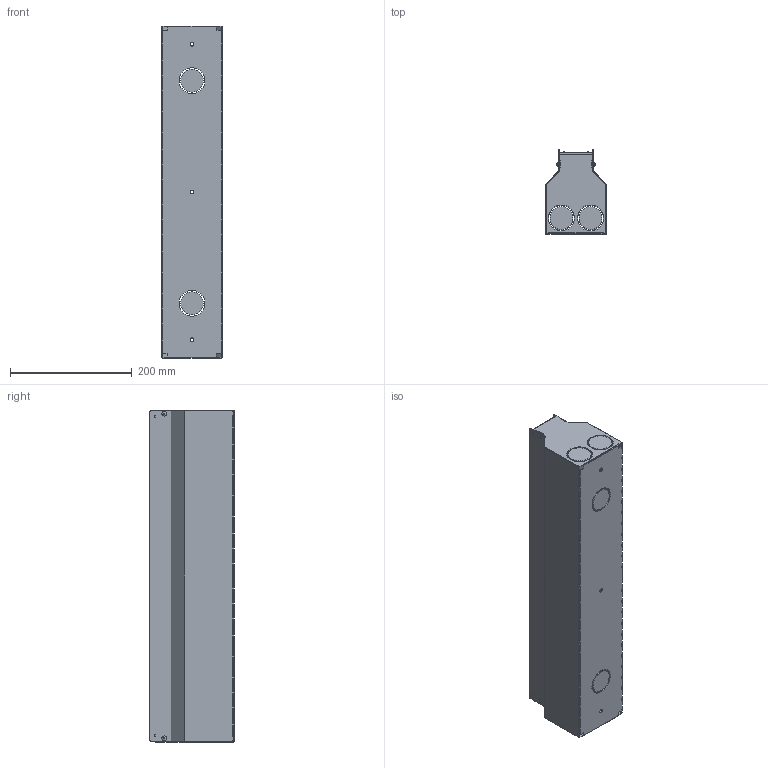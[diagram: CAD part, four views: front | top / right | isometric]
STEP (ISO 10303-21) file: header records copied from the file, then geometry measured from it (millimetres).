
FILE_DESCRIPTION(/* description */ ('Unknown'),/* implementation_level */ '2;1');
FILE_NAME(/* name */ 'E98672',/* time_stamp */ '2023-02-07T09:07:03+01:00',/* author */ ('Unknown'),/* organization */ ('Unknown'),/* preprocessor_version */ 'ST-DEVELOPER v18.1',/* originating_system */ 'Solid Edge',/* authorisation */ 'Unknown');
FILE_SCHEMA (('AUTOMOTIVE_DESIGN {1 0 10303 214 3 1 1}'));
Length unit declared in the file: millimetre
Products named in the file (1): E98672
Bounding box: 100.2 x 138.27 x 546 mm (x, y, z)
Volume: 235820.4 mm3; surface area: 473894.4 mm2
Topology: 1 solids, 1 shells, 659 faces, 2216 edges, 1477 vertices
Faces by surface type: plane 376, cylinder 245, torus 24, sphere 8, cone 6
Full cylindrical faces by diameter (mm): 3 x4, 3.242 x2, 3.5 x4, 3.8 x4, 4.5 x8, 6 x9, 7.8 x4
Entity records: 28269 total; most frequent: CARTESIAN_POINT 4190, ORIENTED_EDGE 4188, DIRECTION 3938, EDGE_CURVE 2094, LINE 1570, VECTOR 1570, VERTEX_POINT 1436, AXIS2_PLACEMENT_3D 1184
